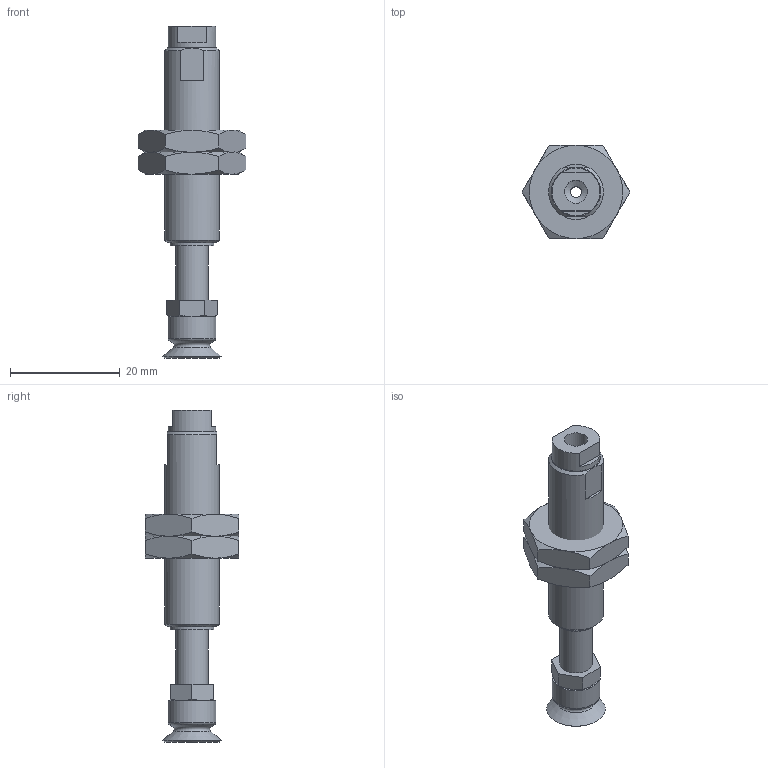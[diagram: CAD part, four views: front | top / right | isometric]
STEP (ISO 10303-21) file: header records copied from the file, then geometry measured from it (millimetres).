
FILE_DESCRIPTION(('STEP AP203'),'1');
FILE_NAME('-LB.stp','2025-04-10T08:32:44',(' '),(' '),'Spatial InterOp 3D',' ',' ');
FILE_SCHEMA(('CONFIG_CONTROL_DESIGN'));
Length unit declared in the file: millimetre
Products named in the file (8): BNABPFTH-10A-10-※-LB; __; BODY; NUT; TN-PS-10-M5; Setting screws-TN-PS-10-M5; BPFG-10A-※
Assembly tree (7 placements, depth 3):
  BNABPFTH-10A-10-※-LB
    __
    BODY
    NUT
    NUT
    TN-PS-10-M5
      Setting screws-TN-PS-10-M5
    BPFG-10A-※
Bounding box: 19.63 x 17 x 60.5 mm (x, y, z)
Volume: 5037.7 mm3; surface area: 4315.5 mm2
Topology: 6 solids, 6 shells, 126 faces, 265 edges, 160 vertices
Faces by surface type: plane 59, cone 41, cylinder 18, torus 7, bspline 1
Full cylindrical faces by diameter (mm): 2 x3, 3.9 x1, 4 x2, 4.2 x2, 5 x1, 6 x3, 8 x1, 8.7 x2, 9 x2, 10 x1
Entity records: 3637 total; most frequent: CARTESIAN_POINT 768, DIRECTION 522, ORIENTED_EDGE 444, AXIS2_PLACEMENT_3D 230, EDGE_CURVE 222, EDGE_LOOP 182, FACE_OUTER_BOUND 152, VERTEX_POINT 152
